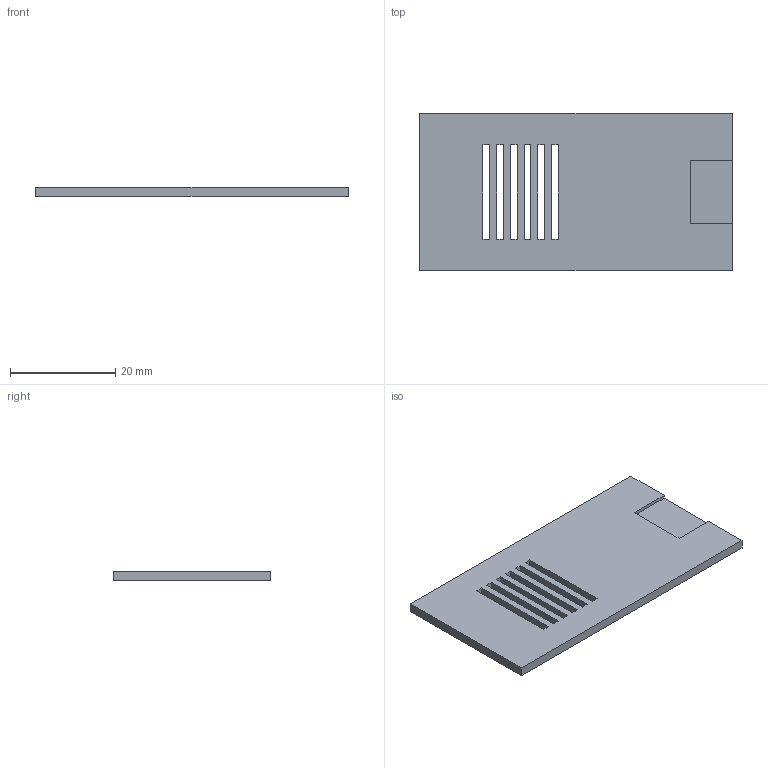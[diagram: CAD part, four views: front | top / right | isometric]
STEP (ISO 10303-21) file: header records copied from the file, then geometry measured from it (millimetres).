
FILE_DESCRIPTION(('Open CASCADE Model'),'2;1');
FILE_NAME('Open CASCADE Shape Model','2026-09-07T15:20:36',('Author'),( 'Open CASCADE'),'Open CASCADE STEP processor 7.9','Open CASCADE 7.9' ,'Unknown');
FILE_SCHEMA(('AUTOMOTIVE_DESIGN { 1 0 10303 214 1 1 1 1 }'));
Length unit declared in the file: millimetre
Products named in the file (1): Open CASCADE STEP translator 7.9 2
Bounding box: 59.3 x 29.8 x 1.8 mm (x, y, z)
Volume: 2865.7 mm3; surface area: 4001.5 mm2
Topology: 1 solids, 1 shells, 34 faces, 96 edges, 64 vertices
Faces by surface type: plane 34
Entity records: 2254 total; most frequent: CARTESIAN_POINT 495, DIRECTION 250, ORIENTED_EDGE 192, PCURVE 192, DEFINITIONAL_REPRESENTATION 192, LINE 180, VECTOR 180, B_SPLINE_CURVE_WITH_KNOTS 108
